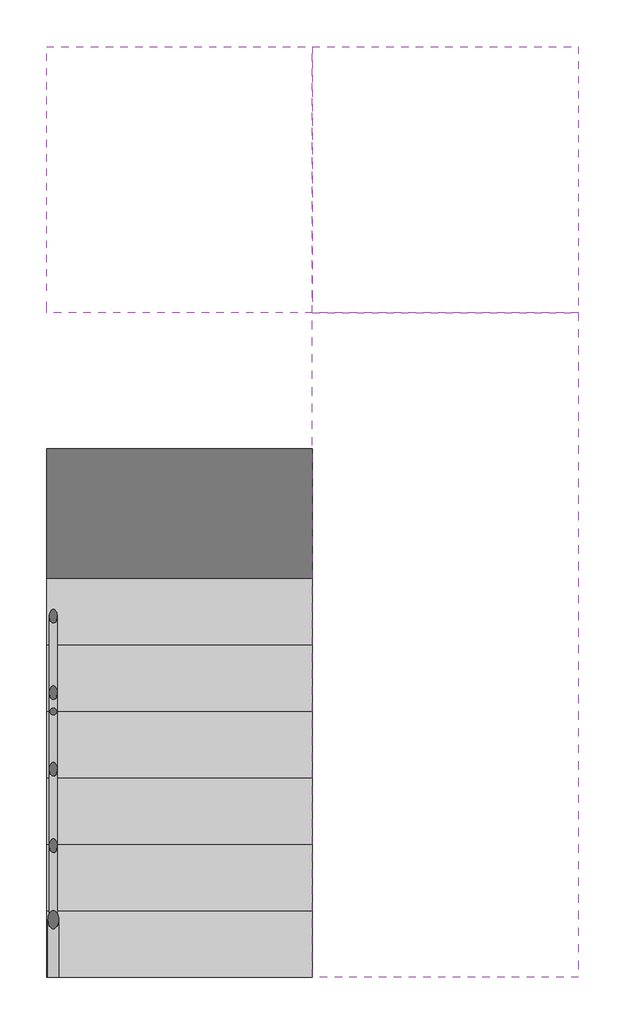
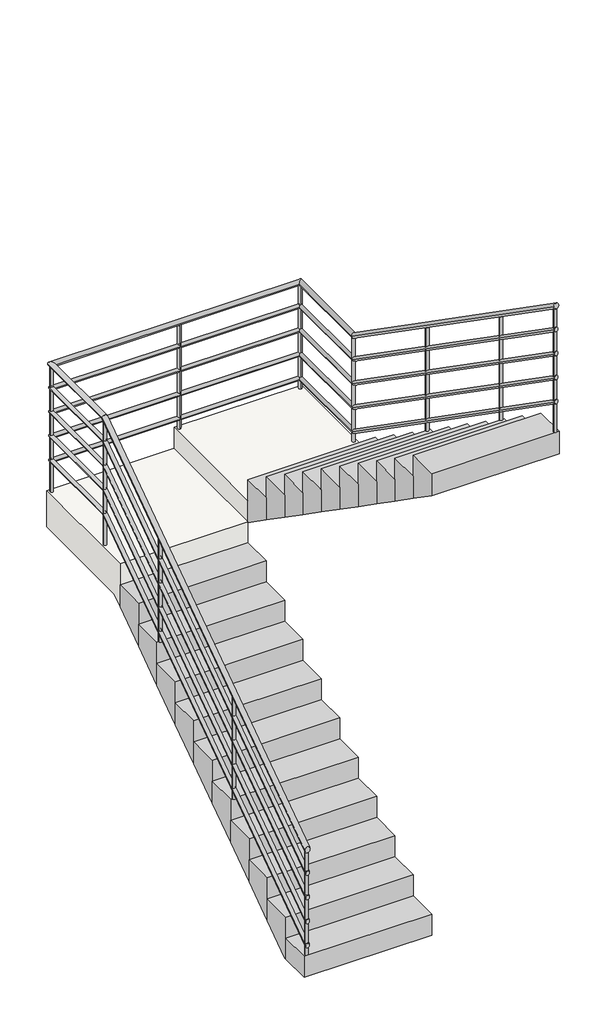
# One storey: 2 slabs, 2 stair flights, 1 railing.
"""IFC4 building model written with IfcOpenShell, lengths in millimetres."""

from ifc_helpers import new_model, si_unit, point, frame, frame_2d, origin, place, context, project, spatial, circle_curve, ellipse_curve, trimmed, segment, composite_curve, outline, extrude, faceted_brep, element, save
from ifc_brep_helpers import plane_surface, cylinder_surface, advanced_brep

model = new_model("IFC4")

# Units and contexts
model_context = context("Model", 3, world=origin())
ifc_project = project(units=[si_unit("LENGTHUNIT", "METRE", prefix="MILLI")], contexts=[model_context])

# Site, building, storey
site = spatial("IfcSite", under=ifc_project)
building = spatial("IfcBuilding", under=site)
storey = spatial("IfcBuildingStorey", under=building, Name="樓層 1", Elevation=0.0)

# Railing
placement = place(None, origin())
element("IfcRailing", 1, ObjectType="900mm 管", at=placement, inside=storey, context=model_context, shape_type="SolidModel", body=[
    advanced_brep(
    [(-8325.6938865, 68.7442764, 1049.5496944), (-8365.6938865, 68.7442764, 1049.5496944), (-6416.4938865, 68.7442764, 4875.6366509), (-6376.4938865, 68.7442764, 4875.6366509), (-8325.6938865, 2825.0165907, 2966.9565217), (-8365.6938865, 2825.0165907, 2966.9565217), (-8325.6938865, 3523.3442764, 2966.9565217), (-8365.6938865, 3563.3442764, 2966.9565217), (-6416.4938865, 3523.3442764, 2966.9565217), (-6376.4938865, 3563.3442764, 2966.9565217), (-6416.4938865, 2812.4719621, 2966.9565217), (-6376.4938865, 2812.4719621, 2966.9565217)],
    [
        (0, 1, ellipse_curve(frame((-8345.6938865, 68.7442764, 1049.5496944), z_axis=(0.0, -1.0, 0.0), x_axis=(0.0, 0.0, -1.0)), 24.3633491, 20.0)),
        (1, 0, ellipse_curve(frame((-8345.6938865, 68.7442764, 1049.5496944), z_axis=(0.0, -1.0, 0.0), x_axis=(0.0, 0.0, -1.0)), 24.3633491, 20.0)),
        (2, 3, ellipse_curve(frame((-6396.4938865, 68.7442764, 4875.6366509), z_axis=(0.0, -1.0, 0.0), x_axis=(0.0, 0.0, -1.0)), 24.3633491, 20.0)),
        (3, 2, ellipse_curve(frame((-6396.4938865, 68.7442764, 4875.6366509), z_axis=(0.0, -1.0, 0.0), x_axis=(0.0, 0.0, -1.0)), 24.3633491, 20.0)),
        (0, 4),
        (4, 5, ellipse_curve(frame((-8345.6938865, 2825.0165907, 2966.9565217), z_axis=(0.0, -0.9541763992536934, -0.29924471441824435), x_axis=(0.0, 0.2992447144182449, -0.9541763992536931)), 20.9604849, 20.0)),
        (5, 1),
        (5, 4, ellipse_curve(frame((-8345.6938865, 2825.0165907, 2966.9565217), z_axis=(0.0, -0.9541763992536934, -0.29924471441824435), x_axis=(0.0, 0.2992447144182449, -0.9541763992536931)), 20.9604849, 20.0)),
        (4, 6),
        (6, 7, ellipse_curve(frame((-8345.6938865, 3543.3442764, 2966.9565217), z_axis=(-0.7071067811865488, -0.7071067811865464, 0.0), x_axis=(0.7071067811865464, -0.7071067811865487, 0.0)), 28.2842712, 20.0)),
        (7, 5),
        (7, 6, ellipse_curve(frame((-8345.6938865, 3543.3442764, 2966.9565217), z_axis=(-0.7071067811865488, -0.7071067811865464, 0.0), x_axis=(0.7071067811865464, -0.7071067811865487, 0.0)), 28.2842712, 20.0)),
        (6, 8),
        (8, 9, ellipse_curve(frame((-6396.4938865, 3543.3442764, 2966.9565217), z_axis=(-0.707106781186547, 0.7071067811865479, 0.0), x_axis=(-0.7071067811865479, -0.7071067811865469, 0.0)), 28.2842712, 20.0)),
        (9, 7),
        (9, 8, ellipse_curve(frame((-6396.4938865, 3543.3442764, 2966.9565217), z_axis=(-0.707106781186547, 0.7071067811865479, 0.0), x_axis=(-0.7071067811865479, -0.7071067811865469, 0.0)), 28.2842712, 20.0)),
        (8, 10),
        (10, 11, ellipse_curve(frame((-6396.4938865, 2812.4719621, 2966.9565217), z_axis=(0.0, 0.9541763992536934, -0.29924471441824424), x_axis=(0.0, 0.2992447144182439, 0.9541763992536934)), 20.9604849, 20.0)),
        (11, 9),
        (11, 10, ellipse_curve(frame((-6396.4938865, 2812.4719621, 2966.9565217), z_axis=(0.0, 0.9541763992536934, -0.29924471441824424), x_axis=(0.0, 0.2992447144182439, 0.9541763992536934)), 20.9604849, 20.0)),
        (10, 2),
        (3, 11),
    ],
    [
        plane_surface(frame((-8345.6938865, 68.7442764, 1073.9130435), z_axis=(0.0, -1.0, 0.0), x_axis=(0.0, 0.0, 1.0))),
        plane_surface(frame((-6396.4938865, 68.7442764, 4900.0), z_axis=(0.0, -1.0, 0.0), x_axis=(0.0, 0.0, -1.0))),
        cylinder_surface(frame((-8345.6938865, 80.1655662, 1057.4949394), z_axis=(0.0, -0.8209052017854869, -0.5710644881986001), x_axis=(-1.0, 0.0, 0.0)), 20.0),
        cylinder_surface(frame((-8345.6938865, 2818.7442764, 2966.9565217), z_axis=(0.0, -1.0, 0.0), x_axis=(-1.0, 0.0, 0.0)), 20.0),
        cylinder_surface(frame((-8345.6938865, 3543.3442764, 2966.9565217), z_axis=(-1.0, 0.0, 0.0), x_axis=(0.0, 1.0, 0.0)), 20.0),
        cylinder_surface(frame((-6396.4938865, 3543.3442764, 2966.9565217), z_axis=(0.0, 1.0, 0.0), x_axis=(1.0, 0.0, 0.0)), 20.0),
        cylinder_surface(frame((-6396.4938865, 2807.3229866, 2970.5384177), z_axis=(0.0, 0.8209052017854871, -0.5710644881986), x_axis=(1.0, 0.0, 0.0)), 20.0),
    ],
    [
        (0, [[1, 2]]),
        (1, [[3, 4]]),
        (2, [[-1, 5, 6, 7]]),
        (2, [[-2, -7, 8, -5]]),
        (3, [[-6, 9, 10, 11]]),
        (3, [[-8, -11, 12, -9]]),
        (4, [[-10, 13, 14, 15]]),
        (4, [[-12, -15, 16, -13]]),
        (5, [[-14, 17, 18, 19]]),
        (5, [[-16, -19, 20, -17]]),
        (6, [[-18, 21, -4, 22]]),
        (6, [[-20, -22, -3, -21]]),
    ],
),
    advanced_brep(
    [(-8330.6938865, 68.7442764, 855.6405317), (-8360.6938865, 68.7442764, 855.6405317), (-8330.6938865, 2823.4485121, 2771.9565217), (-8360.6938865, 2823.4485121, 2771.9565217), (-8330.6938865, 3528.3442764, 2771.9565217), (-8360.6938865, 3558.3442764, 2771.9565217), (-6411.4938865, 3528.3442764, 2771.9565217), (-6381.4938865, 3558.3442764, 2771.9565217), (-6411.4938865, 2814.0400407, 2771.9565217), (-6381.4938865, 2814.0400407, 2771.9565217), (-6411.4938865, 68.7442764, 4681.7274882), (-6381.4938865, 68.7442764, 4681.7274882)],
    [
        (0, 1, ellipse_curve(frame((-8345.6938865, 68.7442764, 855.6405317), z_axis=(0.0, -1.0, 0.0), x_axis=(0.0, 0.0, -1.0)), 18.2725118, 15.0)),
        (1, 0, ellipse_curve(frame((-8345.6938865, 68.7442764, 855.6405317), z_axis=(0.0, -1.0, 0.0), x_axis=(0.0, 0.0, -1.0)), 18.2725118, 15.0)),
        (0, 2),
        (2, 3, ellipse_curve(frame((-8345.6938865, 2823.4485121, 2771.9565217), z_axis=(0.0, -0.9541763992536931, -0.2992447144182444), x_axis=(0.0, 0.29924471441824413, -0.9541763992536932)), 15.7203637, 15.0)),
        (3, 1),
        (3, 2, ellipse_curve(frame((-8345.6938865, 2823.4485121, 2771.9565217), z_axis=(0.0, -0.9541763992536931, -0.2992447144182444), x_axis=(0.0, 0.29924471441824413, -0.9541763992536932)), 15.7203637, 15.0)),
        (2, 4),
        (4, 5, ellipse_curve(frame((-8345.6938865, 3543.3442764, 2771.9565217), z_axis=(-0.7071067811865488, -0.7071067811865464, 0.0), x_axis=(0.7071067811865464, -0.7071067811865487, 0.0)), 21.2132034, 15.0)),
        (5, 3),
        (5, 4, ellipse_curve(frame((-8345.6938865, 3543.3442764, 2771.9565217), z_axis=(-0.7071067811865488, -0.7071067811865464, 0.0), x_axis=(0.7071067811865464, -0.7071067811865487, 0.0)), 21.2132034, 15.0)),
        (4, 6),
        (6, 7, ellipse_curve(frame((-6396.4938865, 3543.3442764, 2771.9565217), z_axis=(-0.707106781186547, 0.7071067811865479, 0.0), x_axis=(-0.7071067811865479, -0.7071067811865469, 0.0)), 21.2132034, 15.0)),
        (7, 5),
        (7, 6, ellipse_curve(frame((-6396.4938865, 3543.3442764, 2771.9565217), z_axis=(-0.707106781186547, 0.7071067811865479, 0.0), x_axis=(-0.7071067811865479, -0.7071067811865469, 0.0)), 21.2132034, 15.0)),
        (6, 8),
        (8, 9, ellipse_curve(frame((-6396.4938865, 2814.0400407, 2771.9565217), z_axis=(0.0, 0.9541763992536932, -0.2992447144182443), x_axis=(0.0, 0.29924471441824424, 0.9541763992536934)), 15.7203637, 15.0)),
        (9, 7),
        (9, 8, ellipse_curve(frame((-6396.4938865, 2814.0400407, 2771.9565217), z_axis=(0.0, 0.9541763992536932, -0.2992447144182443), x_axis=(0.0, 0.29924471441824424, 0.9541763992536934)), 15.7203637, 15.0)),
        (10, 11, ellipse_curve(frame((-6396.4938865, 68.7442764, 4681.7274882), z_axis=(0.0, -1.0, 0.0), x_axis=(0.0, 0.0, -1.0)), 18.2725118, 15.0)),
        (11, 10, ellipse_curve(frame((-6396.4938865, 68.7442764, 4681.7274882), z_axis=(0.0, -1.0, 0.0), x_axis=(0.0, 0.0, -1.0)), 18.2725118, 15.0)),
        (8, 10),
        (11, 9),
    ],
    [
        plane_surface(frame((-8345.6938865, 68.7442764, 873.9130435), z_axis=(0.0, -1.0, 0.0), x_axis=(0.0, 0.0, 1.0))),
        cylinder_surface(frame((-8345.6938865, 77.3102437, 861.5994655), z_axis=(0.0, -0.8209052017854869, -0.5710644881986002), x_axis=(-1.0, 0.0, 0.0)), 15.0),
        cylinder_surface(frame((-8345.6938865, 2818.7442764, 2771.9565217), z_axis=(0.0, -1.0, 0.0), x_axis=(-1.0, 0.0, 0.0)), 15.0),
        cylinder_surface(frame((-8345.6938865, 3543.3442764, 2771.9565217), z_axis=(-1.0, 0.0, 0.0), x_axis=(0.0, 1.0, 0.0)), 15.0),
        cylinder_surface(frame((-6396.4938865, 3543.3442764, 2771.9565217), z_axis=(0.0, 1.0, 0.0), x_axis=(1.0, 0.0, 0.0)), 15.0),
        plane_surface(frame((-6396.4938865, 68.7442764, 4700.0), z_axis=(0.0, -1.0, 0.0), x_axis=(0.0, 0.0, -1.0))),
        cylinder_surface(frame((-6396.4938865, 2810.1783091, 2774.6429437), z_axis=(0.0, 0.820905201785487, -0.5710644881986), x_axis=(1.0, 0.0, 0.0)), 15.0),
    ],
    [
        (0, [[1, 2]]),
        (1, [[-1, 3, 4, 5]]),
        (1, [[-2, -5, 6, -3]]),
        (2, [[-4, 7, 8, 9]]),
        (2, [[-6, -9, 10, -7]]),
        (3, [[-8, 11, 12, 13]]),
        (3, [[-10, -13, 14, -11]]),
        (4, [[-12, 15, 16, 17]]),
        (4, [[-14, -17, 18, -15]]),
        (5, [[19, 20]]),
        (6, [[-16, 21, -20, 22]]),
        (6, [[-18, -22, -19, -21]]),
    ],
),
    advanced_brep(
    [(-8330.6938865, 68.7442764, 655.6405317), (-8360.6938865, 68.7442764, 655.6405317), (-8330.6938865, 2823.4485121, 2571.9565217), (-8360.6938865, 2823.4485121, 2571.9565217), (-8330.6938865, 3528.3442764, 2571.9565217), (-8360.6938865, 3558.3442764, 2571.9565217), (-6411.4938865, 3528.3442764, 2571.9565217), (-6381.4938865, 3558.3442764, 2571.9565217), (-6411.4938865, 2814.0400407, 2571.9565217), (-6381.4938865, 2814.0400407, 2571.9565217), (-6411.4938865, 68.7442764, 4481.7274882), (-6381.4938865, 68.7442764, 4481.7274882)],
    [
        (0, 1, ellipse_curve(frame((-8345.6938865, 68.7442764, 655.6405317), z_axis=(0.0, -1.0, 0.0), x_axis=(0.0, 0.0, -1.0)), 18.2725118, 15.0)),
        (1, 0, ellipse_curve(frame((-8345.6938865, 68.7442764, 655.6405317), z_axis=(0.0, -1.0, 0.0), x_axis=(0.0, 0.0, -1.0)), 18.2725118, 15.0)),
        (0, 2),
        (2, 3, ellipse_curve(frame((-8345.6938865, 2823.4485121, 2571.9565217), z_axis=(0.0, -0.9541763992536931, -0.2992447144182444), x_axis=(0.0, 0.29924471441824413, -0.9541763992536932)), 15.7203637, 15.0)),
        (3, 1),
        (3, 2, ellipse_curve(frame((-8345.6938865, 2823.4485121, 2571.9565217), z_axis=(0.0, -0.9541763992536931, -0.2992447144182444), x_axis=(0.0, 0.29924471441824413, -0.9541763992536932)), 15.7203637, 15.0)),
        (2, 4),
        (4, 5, ellipse_curve(frame((-8345.6938865, 3543.3442764, 2571.9565217), z_axis=(-0.7071067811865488, -0.7071067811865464, 0.0), x_axis=(0.7071067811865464, -0.7071067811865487, 0.0)), 21.2132034, 15.0)),
        (5, 3),
        (5, 4, ellipse_curve(frame((-8345.6938865, 3543.3442764, 2571.9565217), z_axis=(-0.7071067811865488, -0.7071067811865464, 0.0), x_axis=(0.7071067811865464, -0.7071067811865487, 0.0)), 21.2132034, 15.0)),
        (4, 6),
        (6, 7, ellipse_curve(frame((-6396.4938865, 3543.3442764, 2571.9565217), z_axis=(-0.707106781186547, 0.7071067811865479, 0.0), x_axis=(-0.7071067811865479, -0.7071067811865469, 0.0)), 21.2132034, 15.0)),
        (7, 5),
        (7, 6, ellipse_curve(frame((-6396.4938865, 3543.3442764, 2571.9565217), z_axis=(-0.707106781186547, 0.7071067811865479, 0.0), x_axis=(-0.7071067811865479, -0.7071067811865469, 0.0)), 21.2132034, 15.0)),
        (6, 8),
        (8, 9, ellipse_curve(frame((-6396.4938865, 2814.0400407, 2571.9565217), z_axis=(0.0, 0.9541763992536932, -0.2992447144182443), x_axis=(0.0, 0.29924471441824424, 0.9541763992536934)), 15.7203637, 15.0)),
        (9, 7),
        (9, 8, ellipse_curve(frame((-6396.4938865, 2814.0400407, 2571.9565217), z_axis=(0.0, 0.9541763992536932, -0.2992447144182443), x_axis=(0.0, 0.29924471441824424, 0.9541763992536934)), 15.7203637, 15.0)),
        (10, 11, ellipse_curve(frame((-6396.4938865, 68.7442764, 4481.7274882), z_axis=(0.0, -1.0, 0.0), x_axis=(0.0, 0.0, -1.0)), 18.2725118, 15.0)),
        (11, 10, ellipse_curve(frame((-6396.4938865, 68.7442764, 4481.7274882), z_axis=(0.0, -1.0, 0.0), x_axis=(0.0, 0.0, -1.0)), 18.2725118, 15.0)),
        (8, 10),
        (11, 9),
    ],
    [
        plane_surface(frame((-8345.6938865, 68.7442764, 673.9130435), z_axis=(0.0, -1.0, 0.0), x_axis=(0.0, 0.0, 1.0))),
        cylinder_surface(frame((-8345.6938865, 77.3102437, 661.5994655), z_axis=(0.0, -0.8209052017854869, -0.5710644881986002), x_axis=(-1.0, 0.0, 0.0)), 15.0),
        cylinder_surface(frame((-8345.6938865, 2818.7442764, 2571.9565217), z_axis=(0.0, -1.0, 0.0), x_axis=(-1.0, 0.0, 0.0)), 15.0),
        cylinder_surface(frame((-8345.6938865, 3543.3442764, 2571.9565217), z_axis=(-1.0, 0.0, 0.0), x_axis=(0.0, 1.0, 0.0)), 15.0),
        cylinder_surface(frame((-6396.4938865, 3543.3442764, 2571.9565217), z_axis=(0.0, 1.0, 0.0), x_axis=(1.0, 0.0, 0.0)), 15.0),
        plane_surface(frame((-6396.4938865, 68.7442764, 4500.0), z_axis=(0.0, -1.0, 0.0), x_axis=(0.0, 0.0, -1.0))),
        cylinder_surface(frame((-6396.4938865, 2810.1783091, 2574.6429437), z_axis=(0.0, 0.820905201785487, -0.5710644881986), x_axis=(1.0, 0.0, 0.0)), 15.0),
    ],
    [
        (0, [[1, 2]]),
        (1, [[-1, 3, 4, 5]]),
        (1, [[-2, -5, 6, -3]]),
        (2, [[-4, 7, 8, 9]]),
        (2, [[-6, -9, 10, -7]]),
        (3, [[-8, 11, 12, 13]]),
        (3, [[-10, -13, 14, -11]]),
        (4, [[-12, 15, 16, 17]]),
        (4, [[-14, -17, 18, -15]]),
        (5, [[19, 20]]),
        (6, [[-16, 21, -20, 22]]),
        (6, [[-18, -22, -19, -21]]),
    ],
),
    advanced_brep(
    [(-8330.6938865, 68.7442764, 455.6405317), (-8360.6938865, 68.7442764, 455.6405317), (-8330.6938865, 2823.4485121, 2371.9565217), (-8360.6938865, 2823.4485121, 2371.9565217), (-8330.6938865, 3528.3442764, 2371.9565217), (-8360.6938865, 3558.3442764, 2371.9565217), (-6411.4938865, 3528.3442764, 2371.9565217), (-6381.4938865, 3558.3442764, 2371.9565217), (-6411.4938865, 2814.0400407, 2371.9565217), (-6381.4938865, 2814.0400407, 2371.9565217), (-6411.4938865, 68.7442764, 4281.7274882), (-6381.4938865, 68.7442764, 4281.7274882)],
    [
        (0, 1, ellipse_curve(frame((-8345.6938865, 68.7442764, 455.6405317), z_axis=(0.0, -1.0, 0.0), x_axis=(0.0, 0.0, -1.0)), 18.2725118, 15.0)),
        (1, 0, ellipse_curve(frame((-8345.6938865, 68.7442764, 455.6405317), z_axis=(0.0, -1.0, 0.0), x_axis=(0.0, 0.0, -1.0)), 18.2725118, 15.0)),
        (0, 2),
        (2, 3, ellipse_curve(frame((-8345.6938865, 2823.4485121, 2371.9565217), z_axis=(0.0, -0.9541763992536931, -0.2992447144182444), x_axis=(0.0, 0.29924471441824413, -0.9541763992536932)), 15.7203637, 15.0)),
        (3, 1),
        (3, 2, ellipse_curve(frame((-8345.6938865, 2823.4485121, 2371.9565217), z_axis=(0.0, -0.9541763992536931, -0.2992447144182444), x_axis=(0.0, 0.29924471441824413, -0.9541763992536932)), 15.7203637, 15.0)),
        (2, 4),
        (4, 5, ellipse_curve(frame((-8345.6938865, 3543.3442764, 2371.9565217), z_axis=(-0.7071067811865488, -0.7071067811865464, 0.0), x_axis=(0.7071067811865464, -0.7071067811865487, 0.0)), 21.2132034, 15.0)),
        (5, 3),
        (5, 4, ellipse_curve(frame((-8345.6938865, 3543.3442764, 2371.9565217), z_axis=(-0.7071067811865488, -0.7071067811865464, 0.0), x_axis=(0.7071067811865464, -0.7071067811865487, 0.0)), 21.2132034, 15.0)),
        (4, 6),
        (6, 7, ellipse_curve(frame((-6396.4938865, 3543.3442764, 2371.9565217), z_axis=(-0.707106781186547, 0.7071067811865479, 0.0), x_axis=(-0.7071067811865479, -0.7071067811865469, 0.0)), 21.2132034, 15.0)),
        (7, 5),
        (7, 6, ellipse_curve(frame((-6396.4938865, 3543.3442764, 2371.9565217), z_axis=(-0.707106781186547, 0.7071067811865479, 0.0), x_axis=(-0.7071067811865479, -0.7071067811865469, 0.0)), 21.2132034, 15.0)),
        (6, 8),
        (8, 9, ellipse_curve(frame((-6396.4938865, 2814.0400407, 2371.9565217), z_axis=(0.0, 0.9541763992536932, -0.2992447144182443), x_axis=(0.0, 0.29924471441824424, 0.9541763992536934)), 15.7203637, 15.0)),
        (9, 7),
        (9, 8, ellipse_curve(frame((-6396.4938865, 2814.0400407, 2371.9565217), z_axis=(0.0, 0.9541763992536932, -0.2992447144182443), x_axis=(0.0, 0.29924471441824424, 0.9541763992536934)), 15.7203637, 15.0)),
        (10, 11, ellipse_curve(frame((-6396.4938865, 68.7442764, 4281.7274882), z_axis=(0.0, -1.0, 0.0), x_axis=(0.0, 0.0, -1.0)), 18.2725118, 15.0)),
        (11, 10, ellipse_curve(frame((-6396.4938865, 68.7442764, 4281.7274882), z_axis=(0.0, -1.0, 0.0), x_axis=(0.0, 0.0, -1.0)), 18.2725118, 15.0)),
        (8, 10),
        (11, 9),
    ],
    [
        plane_surface(frame((-8345.6938865, 68.7442764, 473.9130435), z_axis=(0.0, -1.0, 0.0), x_axis=(0.0, 0.0, 1.0))),
        cylinder_surface(frame((-8345.6938865, 77.3102437, 461.5994655), z_axis=(0.0, -0.8209052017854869, -0.5710644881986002), x_axis=(-1.0, 0.0, 0.0)), 15.0),
        cylinder_surface(frame((-8345.6938865, 2818.7442764, 2371.9565217), z_axis=(0.0, -1.0, 0.0), x_axis=(-1.0, 0.0, 0.0)), 15.0),
        cylinder_surface(frame((-8345.6938865, 3543.3442764, 2371.9565217), z_axis=(-1.0, 0.0, 0.0), x_axis=(0.0, 1.0, 0.0)), 15.0),
        cylinder_surface(frame((-6396.4938865, 3543.3442764, 2371.9565217), z_axis=(0.0, 1.0, 0.0), x_axis=(1.0, 0.0, 0.0)), 15.0),
        plane_surface(frame((-6396.4938865, 68.7442764, 4300.0), z_axis=(0.0, -1.0, 0.0), x_axis=(0.0, 0.0, -1.0))),
        cylinder_surface(frame((-6396.4938865, 2810.1783091, 2374.6429437), z_axis=(0.0, 0.820905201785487, -0.5710644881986), x_axis=(1.0, 0.0, 0.0)), 15.0),
    ],
    [
        (0, [[1, 2]]),
        (1, [[-1, 3, 4, 5]]),
        (1, [[-2, -5, 6, -3]]),
        (2, [[-4, 7, 8, 9]]),
        (2, [[-6, -9, 10, -7]]),
        (3, [[-8, 11, 12, 13]]),
        (3, [[-10, -13, 14, -11]]),
        (4, [[-12, 15, 16, 17]]),
        (4, [[-14, -17, 18, -15]]),
        (5, [[19, 20]]),
        (6, [[-16, 21, -20, 22]]),
        (6, [[-18, -22, -19, -21]]),
    ],
),
    advanced_brep(
    [(-8330.6938865, 68.7442764, 255.6405317), (-8360.6938865, 68.7442764, 255.6405317), (-8330.6938865, 2823.4485121, 2171.9565217), (-8360.6938865, 2823.4485121, 2171.9565217), (-8330.6938865, 3528.3442764, 2171.9565217), (-8360.6938865, 3558.3442764, 2171.9565217), (-6411.4938865, 3528.3442764, 2171.9565217), (-6381.4938865, 3558.3442764, 2171.9565217), (-6411.4938865, 2814.0400407, 2171.9565217), (-6381.4938865, 2814.0400407, 2171.9565217), (-6411.4938865, 68.7442764, 4081.7274882), (-6381.4938865, 68.7442764, 4081.7274882)],
    [
        (0, 1, ellipse_curve(frame((-8345.6938865, 68.7442764, 255.6405317), z_axis=(0.0, -1.0, 0.0), x_axis=(0.0, 0.0, -1.0)), 18.2725118, 15.0)),
        (1, 0, ellipse_curve(frame((-8345.6938865, 68.7442764, 255.6405317), z_axis=(0.0, -1.0, 0.0), x_axis=(0.0, 0.0, -1.0)), 18.2725118, 15.0)),
        (0, 2),
        (2, 3, ellipse_curve(frame((-8345.6938865, 2823.4485121, 2171.9565217), z_axis=(0.0, -0.9541763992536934, -0.29924471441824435), x_axis=(0.0, 0.2992447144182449, -0.9541763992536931)), 15.7203637, 15.0)),
        (3, 1),
        (3, 2, ellipse_curve(frame((-8345.6938865, 2823.4485121, 2171.9565217), z_axis=(0.0, -0.9541763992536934, -0.29924471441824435), x_axis=(0.0, 0.2992447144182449, -0.9541763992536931)), 15.7203637, 15.0)),
        (2, 4),
        (4, 5, ellipse_curve(frame((-8345.6938865, 3543.3442764, 2171.9565217), z_axis=(-0.7071067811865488, -0.7071067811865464, 0.0), x_axis=(0.7071067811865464, -0.7071067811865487, 0.0)), 21.2132034, 15.0)),
        (5, 3),
        (5, 4, ellipse_curve(frame((-8345.6938865, 3543.3442764, 2171.9565217), z_axis=(-0.7071067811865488, -0.7071067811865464, 0.0), x_axis=(0.7071067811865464, -0.7071067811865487, 0.0)), 21.2132034, 15.0)),
        (4, 6),
        (6, 7, ellipse_curve(frame((-6396.4938865, 3543.3442764, 2171.9565217), z_axis=(-0.707106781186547, 0.7071067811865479, 0.0), x_axis=(-0.7071067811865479, -0.7071067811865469, 0.0)), 21.2132034, 15.0)),
        (7, 5),
        (7, 6, ellipse_curve(frame((-6396.4938865, 3543.3442764, 2171.9565217), z_axis=(-0.707106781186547, 0.7071067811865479, 0.0), x_axis=(-0.7071067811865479, -0.7071067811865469, 0.0)), 21.2132034, 15.0)),
        (6, 8),
        (8, 9, ellipse_curve(frame((-6396.4938865, 2814.0400407, 2171.9565217), z_axis=(0.0, 0.9541763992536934, -0.29924471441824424), x_axis=(0.0, 0.2992447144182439, 0.9541763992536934)), 15.7203637, 15.0)),
        (9, 7),
        (9, 8, ellipse_curve(frame((-6396.4938865, 2814.0400407, 2171.9565217), z_axis=(0.0, 0.9541763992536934, -0.29924471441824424), x_axis=(0.0, 0.2992447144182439, 0.9541763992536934)), 15.7203637, 15.0)),
        (10, 11, ellipse_curve(frame((-6396.4938865, 68.7442764, 4081.7274882), z_axis=(0.0, -1.0, 0.0), x_axis=(0.0, 0.0, -1.0)), 18.2725118, 15.0)),
        (11, 10, ellipse_curve(frame((-6396.4938865, 68.7442764, 4081.7274882), z_axis=(0.0, -1.0, 0.0), x_axis=(0.0, 0.0, -1.0)), 18.2725118, 15.0)),
        (8, 10),
        (11, 9),
    ],
    [
        plane_surface(frame((-8345.6938865, 68.7442764, 273.9130435), z_axis=(0.0, -1.0, 0.0), x_axis=(0.0, 0.0, 1.0))),
        cylinder_surface(frame((-8345.6938865, 77.3102437, 261.5994655), z_axis=(0.0, -0.8209052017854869, -0.5710644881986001), x_axis=(-1.0, 0.0, 0.0)), 15.0),
        cylinder_surface(frame((-8345.6938865, 2818.7442764, 2171.9565217), z_axis=(0.0, -1.0, 0.0), x_axis=(-1.0, 0.0, 0.0)), 15.0),
        cylinder_surface(frame((-8345.6938865, 3543.3442764, 2171.9565217), z_axis=(-1.0, 0.0, 0.0), x_axis=(0.0, 1.0, 0.0)), 15.0),
        cylinder_surface(frame((-6396.4938865, 3543.3442764, 2171.9565217), z_axis=(0.0, 1.0, 0.0), x_axis=(1.0, 0.0, 0.0)), 15.0),
        plane_surface(frame((-6396.4938865, 68.7442764, 4100.0), z_axis=(0.0, -1.0, 0.0), x_axis=(0.0, 0.0, -1.0))),
        cylinder_surface(frame((-6396.4938865, 2810.1783091, 2174.6429437), z_axis=(0.0, 0.8209052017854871, -0.5710644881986), x_axis=(1.0, 0.0, 0.0)), 15.0),
    ],
    [
        (0, [[1, 2]]),
        (1, [[-1, 3, 4, 5]]),
        (1, [[-2, -5, 6, -3]]),
        (2, [[-4, 7, 8, 9]]),
        (2, [[-6, -9, 10, -7]]),
        (3, [[-8, 11, 12, 13]]),
        (3, [[-10, -13, 14, -11]]),
        (4, [[-12, 15, 16, 17]]),
        (4, [[-14, -17, 18, -15]]),
        (5, [[19, 20]]),
        (6, [[-16, 21, -20, 22]]),
        (6, [[-18, -22, -19, -21]]),
    ],
),
    advanced_brep(
    [(-6383.9938865, 818.7442764, 4329.5341714), (-6408.9938865, 818.7442764, 4329.5341714), (-6408.9938865, 818.7442764, 3478.2608696), (-6383.9938865, 818.7442764, 3478.2608696)],
    [
        (0, 1, ellipse_curve(frame((-6396.4938865, 818.7442764, 4329.5341714), z_axis=(0.0, -0.5710644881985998, -0.8209052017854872), x_axis=(0.0, -0.8209052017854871, 0.5710644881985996)), 15.2270932, 12.5)),
        (1, 2),
        (2, 3, circle_curve(frame((-6396.4938865, 818.7442764, 3478.2608696), z_axis=(0.0, 0.0, 1.0), x_axis=(-1.0, 0.0, 0.0)), 12.5)),
        (3, 0),
        (3, 2, circle_curve(frame((-6396.4938865, 818.7442764, 3478.2608696), z_axis=(0.0, 0.0, 1.0), x_axis=(-1.0, 0.0, 0.0)), 12.5)),
        (1, 0, ellipse_curve(frame((-6396.4938865, 818.7442764, 4329.5341714), z_axis=(0.0, -0.5710644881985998, -0.8209052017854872), x_axis=(0.0, -0.8209052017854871, 0.5710644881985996)), 15.2270932, 12.5)),
    ],
    [
        cylinder_surface(frame((-6396.4938865, 818.7442764, 3378.2608696), z_axis=(0.0, 0.0, 1.0), x_axis=(-1.0, 0.0, 0.0)), 12.5),
        plane_surface(frame((-6421.4938865, 793.7442764, 4346.9254757), z_axis=(0.0, 0.5710644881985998, 0.8209052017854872), x_axis=(1.0, 0.0, 0.0))),
        plane_surface(frame((-6421.4938865, 843.7442764, 3478.2608696), z_axis=(0.0, 0.0, -1.0), x_axis=(1.0, 0.0, 0.0))),
    ],
    [
        (0, [[1, 2, 3, 4]]),
        (0, [[5, -2, 6, -4]]),
        (1, [[-6, -1]]),
        (2, [[-5, -3]]),
    ],
),
    advanced_brep(
    [(-6383.9938865, 1818.7442764, 3633.8819975), (-6408.9938865, 1818.7442764, 3633.8819975), (-6408.9938865, 1818.7442764, 2782.6086957), (-6383.9938865, 1818.7442764, 2782.6086957)],
    [
        (0, 1, ellipse_curve(frame((-6396.4938865, 1818.7442764, 3633.8819975), z_axis=(0.0, -0.5710644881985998, -0.8209052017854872), x_axis=(0.0, -0.8209052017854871, 0.5710644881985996)), 15.2270932, 12.5)),
        (1, 2),
        (2, 3, circle_curve(frame((-6396.4938865, 1818.7442764, 2782.6086957), z_axis=(0.0, 0.0, 1.0), x_axis=(-1.0, 0.0, 0.0)), 12.5)),
        (3, 0),
        (3, 2, circle_curve(frame((-6396.4938865, 1818.7442764, 2782.6086957), z_axis=(0.0, 0.0, 1.0), x_axis=(-1.0, 0.0, 0.0)), 12.5)),
        (1, 0, ellipse_curve(frame((-6396.4938865, 1818.7442764, 3633.8819975), z_axis=(0.0, -0.5710644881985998, -0.8209052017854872), x_axis=(0.0, -0.8209052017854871, 0.5710644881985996)), 15.2270932, 12.5)),
    ],
    [
        cylinder_surface(frame((-6396.4938865, 1818.7442764, 2682.6086957), z_axis=(0.0, 0.0, 1.0), x_axis=(-1.0, 0.0, 0.0)), 12.5),
        plane_surface(frame((-6421.4938865, 1793.7442764, 3651.2733018), z_axis=(0.0, 0.5710644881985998, 0.8209052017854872), x_axis=(1.0, 0.0, 0.0))),
        plane_surface(frame((-6421.4938865, 1843.7442764, 2782.6086957), z_axis=(0.0, 0.0, -1.0), x_axis=(1.0, 0.0, 0.0))),
    ],
    [
        (0, [[1, 2, 3, 4]]),
        (0, [[5, -2, 6, -4]]),
        (1, [[-6, -1]]),
        (2, [[-5, -3]]),
    ],
),
    extrude(outline(composite_curve([segment(trimmed(circle_curve(frame_2d((-7345.6938865, 3543.3442764)), 12.5), [point((-7345.6938865, 3530.8442764))], [point((-7345.6938865, 3555.8442764))], False, "CARTESIAN"), True, "CONTINUOUS"), segment(trimmed(circle_curve(frame_2d((-7345.6938865, 3543.3442764)), 12.5), [point((-7345.6938865, 3555.8442764))], [point((-7345.6938865, 3530.8442764))], False, "CARTESIAN"), True, "CONTINUOUS")], self_intersect=False)), frame((0.0, 0.0, 2086.9565217), z_axis=(0.0, 0.0, 1.0), x_axis=(1.0, 0.0, 0.0)), (0.0, 0.0, 1.0), 860.0),
    advanced_brep(
    [(-8358.1938865, 2068.7442764, 2416.4906931), (-8333.1938865, 2068.7442764, 2416.4906931), (-8333.1938865, 2068.7442764, 1565.2173913), (-8358.1938865, 2068.7442764, 1565.2173913)],
    [
        (0, 1, ellipse_curve(frame((-8345.6938865, 2068.7442764, 2416.4906931), z_axis=(0.0, 0.5710644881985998, -0.8209052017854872), x_axis=(0.0, 0.8209052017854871, 0.5710644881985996)), 15.2270932, 12.5)),
        (1, 2),
        (2, 3, circle_curve(frame((-8345.6938865, 2068.7442764, 1565.2173913), z_axis=(0.0, 0.0, 1.0), x_axis=(1.0, 0.0, 0.0)), 12.5)),
        (3, 0),
        (3, 2, circle_curve(frame((-8345.6938865, 2068.7442764, 1565.2173913), z_axis=(0.0, 0.0, 1.0), x_axis=(1.0, 0.0, 0.0)), 12.5)),
        (1, 0, ellipse_curve(frame((-8345.6938865, 2068.7442764, 2416.4906931), z_axis=(0.0, 0.5710644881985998, -0.8209052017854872), x_axis=(0.0, 0.8209052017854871, 0.5710644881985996)), 15.2270932, 12.5)),
    ],
    [
        cylinder_surface(frame((-8345.6938865, 2068.7442764, 1465.2173913), z_axis=(0.0, 0.0, 1.0), x_axis=(1.0, 0.0, 0.0)), 12.5),
        plane_surface(frame((-8320.6938865, 2093.7442764, 2433.8819975), z_axis=(0.0, -0.5710644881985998, 0.8209052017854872), x_axis=(-1.0, 0.0, 0.0))),
        plane_surface(frame((-8320.6938865, 2043.7442764, 1565.2173913), z_axis=(0.0, 0.0, -1.0), x_axis=(-1.0, 0.0, 0.0))),
    ],
    [
        (0, [[1, 2, 3, 4]]),
        (0, [[5, -2, 6, -4]]),
        (1, [[-6, -1]]),
        (2, [[-5, -3]]),
    ],
),
    advanced_brep(
    [(-8358.1938865, 1068.7442764, 1720.8385192), (-8333.1938865, 1068.7442764, 1720.8385192), (-8333.1938865, 1068.7442764, 869.5652174), (-8358.1938865, 1068.7442764, 869.5652174)],
    [
        (0, 1, ellipse_curve(frame((-8345.6938865, 1068.7442764, 1720.8385192), z_axis=(0.0, 0.5710644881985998, -0.8209052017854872), x_axis=(0.0, 0.8209052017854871, 0.5710644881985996)), 15.2270932, 12.5)),
        (1, 2),
        (2, 3, circle_curve(frame((-8345.6938865, 1068.7442764, 869.5652174), z_axis=(0.0, 0.0, 1.0), x_axis=(1.0, 0.0, 0.0)), 12.5)),
        (3, 0),
        (3, 2, circle_curve(frame((-8345.6938865, 1068.7442764, 869.5652174), z_axis=(0.0, 0.0, 1.0), x_axis=(1.0, 0.0, 0.0)), 12.5)),
        (1, 0, ellipse_curve(frame((-8345.6938865, 1068.7442764, 1720.8385192), z_axis=(0.0, 0.5710644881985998, -0.8209052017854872), x_axis=(0.0, 0.8209052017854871, 0.5710644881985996)), 15.2270932, 12.5)),
    ],
    [
        cylinder_surface(frame((-8345.6938865, 1068.7442764, 769.5652174), z_axis=(0.0, 0.0, 1.0), x_axis=(1.0, 0.0, 0.0)), 12.5),
        plane_surface(frame((-8320.6938865, 1093.7442764, 1738.2298236), z_axis=(0.0, -0.5710644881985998, 0.8209052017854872), x_axis=(-1.0, 0.0, 0.0))),
        plane_surface(frame((-8320.6938865, 1043.7442764, 869.5652174), z_axis=(0.0, 0.0, -1.0), x_axis=(-1.0, 0.0, 0.0))),
    ],
    [
        (0, [[1, 2, 3, 4]]),
        (0, [[5, -2, 6, -4]]),
        (1, [[-6, -1]]),
        (2, [[-5, -3]]),
    ],
),
    extrude(outline(composite_curve([segment(trimmed(circle_curve(frame_2d((-6396.4938865, 2818.7442764)), 12.5), [point((-6408.9938865, 2818.7442764))], [point((-6383.9938865, 2818.7442764))], False, "CARTESIAN"), True, "CONTINUOUS"), segment(trimmed(circle_curve(frame_2d((-6396.4938865, 2818.7442764)), 12.5), [point((-6383.9938865, 2818.7442764))], [point((-6408.9938865, 2818.7442764))], False, "CARTESIAN"), True, "CONTINUOUS")], self_intersect=False)), frame((0.0, 0.0, 2086.9565217), z_axis=(0.0, 0.0, 1.0), x_axis=(1.0, 0.0, 0.0)), (0.0, 0.0, 1.0), 860.0),
    extrude(outline(composite_curve([segment(trimmed(circle_curve(frame_2d((-6396.4938865, 3543.3442764)), 12.5), [point((-6396.4938865, 3530.8442764))], [point((-6396.4938865, 3555.8442764))], False, "CARTESIAN"), True, "CONTINUOUS"), segment(trimmed(circle_curve(frame_2d((-6396.4938865, 3543.3442764)), 12.5), [point((-6396.4938865, 3555.8442764))], [point((-6396.4938865, 3530.8442764))], False, "CARTESIAN"), True, "CONTINUOUS")], self_intersect=False)), frame((0.0, 0.0, 2086.9565217), z_axis=(0.0, 0.0, 1.0), x_axis=(1.0, 0.0, 0.0)), (0.0, 0.0, 1.0), 860.0),
    extrude(outline(composite_curve([segment(trimmed(circle_curve(frame_2d((-8345.6938865, 3543.3442764)), 12.5), [point((-8333.1938865, 3543.3442764))], [point((-8358.1938865, 3543.3442764))], False, "CARTESIAN"), True, "CONTINUOUS"), segment(trimmed(circle_curve(frame_2d((-8345.6938865, 3543.3442764)), 12.5), [point((-8358.1938865, 3543.3442764))], [point((-8333.1938865, 3543.3442764))], False, "CARTESIAN"), True, "CONTINUOUS")], self_intersect=False)), frame((0.0, 0.0, 1913.0434783), z_axis=(0.0, 0.0, 1.0), x_axis=(1.0, 0.0, 0.0)), (0.0, 0.0, 1.0), 1033.9130435),
    advanced_brep(
    [(-8358.1938865, 2818.7442764, 2938.2298236), (-8333.1938865, 2818.7442764, 2938.2298236), (-8333.1938865, 2818.7442764, 1913.0434783), (-8358.1938865, 2818.7442764, 1913.0434783)],
    [
        (0, 1, ellipse_curve(frame((-8345.6938865, 2818.7442764, 2938.2298236), z_axis=(0.0, 0.5710644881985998, -0.8209052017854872), x_axis=(0.0, 0.8209052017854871, 0.5710644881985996)), 15.2270932, 12.5)),
        (1, 2),
        (2, 3, circle_curve(frame((-8345.6938865, 2818.7442764, 1913.0434783), z_axis=(0.0, 0.0, 1.0), x_axis=(1.0, 0.0, 0.0)), 12.5)),
        (3, 0),
        (3, 2, circle_curve(frame((-8345.6938865, 2818.7442764, 1913.0434783), z_axis=(0.0, 0.0, 1.0), x_axis=(1.0, 0.0, 0.0)), 12.5)),
        (1, 0, ellipse_curve(frame((-8345.6938865, 2818.7442764, 2938.2298236), z_axis=(0.0, 0.5710644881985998, -0.8209052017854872), x_axis=(0.0, 0.8209052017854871, 0.5710644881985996)), 15.2270932, 12.5)),
    ],
    [
        cylinder_surface(frame((-8345.6938865, 2818.7442764, 1813.0434783), z_axis=(0.0, 0.0, 1.0), x_axis=(1.0, 0.0, 0.0)), 12.5),
        plane_surface(frame((-8320.6938865, 2843.7442764, 2955.6211279), z_axis=(0.0, -0.5710644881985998, 0.8209052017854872), x_axis=(-1.0, 0.0, 0.0))),
        plane_surface(frame((-8320.6938865, 2793.7442764, 1913.0434783), z_axis=(0.0, 0.0, -1.0), x_axis=(-1.0, 0.0, 0.0))),
    ],
    [
        (0, [[1, 2, 3, 4]]),
        (0, [[5, -2, 6, -4]]),
        (1, [[-6, -1]]),
        (2, [[-5, -3]]),
    ],
),
    advanced_brep(
    [(-6383.9938865, 81.2442764, 4842.5776496), (-6408.9938865, 81.2442764, 4842.5776496), (-6408.9938865, 81.2442764, 3826.0869565), (-6383.9938865, 81.2442764, 3826.0869565)],
    [
        (0, 1, ellipse_curve(frame((-6396.4938865, 81.2442764, 4842.5776496), z_axis=(0.0, -0.5710644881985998, -0.8209052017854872), x_axis=(0.0, -0.8209052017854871, 0.5710644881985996)), 15.2270932, 12.5)),
        (1, 2),
        (2, 3, circle_curve(frame((-6396.4938865, 81.2442764, 3826.0869565), z_axis=(0.0, 0.0, 1.0), x_axis=(-1.0, 0.0, 0.0)), 12.5)),
        (3, 0),
        (3, 2, circle_curve(frame((-6396.4938865, 81.2442764, 3826.0869565), z_axis=(0.0, 0.0, 1.0), x_axis=(-1.0, 0.0, 0.0)), 12.5)),
        (1, 0, ellipse_curve(frame((-6396.4938865, 81.2442764, 4842.5776496), z_axis=(0.0, -0.5710644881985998, -0.8209052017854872), x_axis=(0.0, -0.8209052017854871, 0.5710644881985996)), 15.2270932, 12.5)),
    ],
    [
        cylinder_surface(frame((-6396.4938865, 81.2442764, 3726.0869565), z_axis=(0.0, 0.0, 1.0), x_axis=(-1.0, 0.0, 0.0)), 12.5),
        plane_surface(frame((-6421.4938865, 56.2442764, 4859.968954), z_axis=(0.0, 0.5710644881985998, 0.8209052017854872), x_axis=(1.0, 0.0, 0.0))),
        plane_surface(frame((-6421.4938865, 106.2442764, 3826.0869565), z_axis=(0.0, 0.0, -1.0), x_axis=(1.0, 0.0, 0.0))),
    ],
    [
        (0, [[1, 2, 3, 4]]),
        (0, [[5, -2, 6, -4]]),
        (1, [[-6, -1]]),
        (2, [[-5, -3]]),
    ],
),
    advanced_brep(
    [(-8358.1938865, 81.2442764, 1033.8819975), (-8333.1938865, 81.2442764, 1033.8819975), (-8333.1938865, 81.2442764, 173.9130435), (-8358.1938865, 81.2442764, 173.9130435)],
    [
        (0, 1, ellipse_curve(frame((-8345.6938865, 81.2442764, 1033.8819975), z_axis=(0.0, 0.5710644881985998, -0.8209052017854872), x_axis=(0.0, 0.8209052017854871, 0.5710644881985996)), 15.2270932, 12.5)),
        (1, 2),
        (2, 3, circle_curve(frame((-8345.6938865, 81.2442764, 173.9130435), z_axis=(0.0, 0.0, 1.0), x_axis=(1.0, 0.0, 0.0)), 12.5)),
        (3, 0),
        (3, 2, circle_curve(frame((-8345.6938865, 81.2442764, 173.9130435), z_axis=(0.0, 0.0, 1.0), x_axis=(1.0, 0.0, 0.0)), 12.5)),
        (1, 0, ellipse_curve(frame((-8345.6938865, 81.2442764, 1033.8819975), z_axis=(0.0, 0.5710644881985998, -0.8209052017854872), x_axis=(0.0, 0.8209052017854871, 0.5710644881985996)), 15.2270932, 12.5)),
    ],
    [
        cylinder_surface(frame((-8345.6938865, 81.2442764, 73.9130435), z_axis=(0.0, 0.0, 1.0), x_axis=(1.0, 0.0, 0.0)), 12.5),
        plane_surface(frame((-8320.6938865, 106.2442764, 1051.2733018), z_axis=(0.0, -0.5710644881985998, 0.8209052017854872), x_axis=(-1.0, 0.0, 0.0))),
        plane_surface(frame((-8320.6938865, 56.2442764, 173.9130435), z_axis=(0.0, 0.0, -1.0), x_axis=(-1.0, 0.0, 0.0))),
    ],
    [
        (0, [[1, 2, 3, 4]]),
        (0, [[5, -2, 6, -4]]),
        (1, [[-6, -1]]),
        (2, [[-5, -3]]),
    ],
),
])

# Slabs
element("IfcSlab", 2, ObjectType="300mm 厚度", at=placement, inside=storey, context=model_context, shape_type="Brep", body=[
    faceted_brep([(-8371.0938865, 2568.7442764, 1913.0434783), (-7371.0938865, 2568.7442764, 1913.0434783), (-7371.0938865, 2650.1616338, 1913.0434783), (-7371.0938865, 3568.7442764, 1913.0434783), (-8371.0938865, 3568.7442764, 1913.0434783), (-8371.0938865, 2650.1616338, 1913.0434783), (-8371.0938865, 2568.7442764, 1739.1304348), (-8371.0938865, 2568.7442764, 1556.4053166), (-7371.0938865, 2568.7442764, 1556.4053166), (-7371.0938865, 2568.7442764, 1739.1304348), (-7371.0938865, 3568.7442764, 1613.0434783), (-8371.0938865, 3568.7442764, 1613.0434783), (-8371.0938865, 2650.1616338, 1613.0434783), (-7371.0938865, 2650.1616338, 1613.0434783)], [[[0, 1, 2, 3, 4, 5]], [[1, 0, 6, 7, 8, 9]], [[4, 3, 10, 11]], [[7, 6, 0, 5, 4, 11, 12]], [[1, 9, 8, 13, 10, 3, 2]], [[13, 12, 11, 10]], [[12, 13, 8, 7]]]),
])
element("IfcSlab", 3, ObjectType="300mm 厚度", at=placement, inside=storey, context=model_context, shape_type="Brep", body=[
    faceted_brep([(-7371.0938865, 2568.7442764, 2086.9565217), (-6371.0938865, 2568.7442764, 2086.9565217), (-6371.0938865, 2737.326919, 2086.9565217), (-6371.0938865, 3568.7442764, 2086.9565217), (-7371.0938865, 3568.7442764, 2086.9565217), (-7371.0938865, 2737.326919, 2086.9565217), (-6371.0938865, 2568.7442764, 1904.2314036), (-6371.0938865, 2737.326919, 1786.9565217), (-6371.0938865, 3568.7442764, 1786.9565217), (-7371.0938865, 3568.7442764, 1786.9565217), (-7371.0938865, 2568.7442764, 1904.2314036), (-7371.0938865, 2737.326919, 1786.9565217)], [[[0, 1, 2, 3, 4, 5]], [[1, 6, 7, 8, 3, 2]], [[4, 3, 8, 9]], [[10, 0, 5, 4, 9, 11]], [[11, 7, 6, 10]], [[1, 0, 10, 6]], [[7, 11, 9, 8]]]),
])

# Stair flights
element("IfcStairFlight", 4, ObjectType="150mm 深度", at=placement, inside=storey, context=model_context, shape_type="Brep", body=[
    faceted_brep([(-8371.0938865, 318.7442764, 173.9130435), (-8371.0938865, 68.7442764, 173.9130435), (-7371.0938865, 68.7442764, 173.9130435), (-7371.0938865, 318.7442764, 173.9130435), (-8371.0938865, 318.7442764, 0.0), (-8371.0938865, 68.7442764, 0.0), (-7371.0938865, 68.7442764, 0.0), (-7371.0938865, 318.7442764, 0.0), (-8371.0938865, 568.7442764, 347.826087), (-8371.0938865, 318.7442764, 347.826087), (-7371.0938865, 318.7442764, 347.826087), (-7371.0938865, 568.7442764, 347.826087), (-8371.0938865, 568.7442764, 165.1009688), (-8371.0938865, 331.4116338, 0.0), (-7371.0938865, 331.4116338, 0.0), (-7371.0938865, 568.7442764, 165.1009688), (-8371.0938865, 818.7442764, 521.7391304), (-8371.0938865, 568.7442764, 521.7391304), (-7371.0938865, 568.7442764, 521.7391304), (-7371.0938865, 818.7442764, 521.7391304), (-8371.0938865, 818.7442764, 339.0140123), (-7371.0938865, 818.7442764, 339.0140123), (-8371.0938865, 1068.7442764, 695.6521739), (-8371.0938865, 818.7442764, 695.6521739), (-7371.0938865, 818.7442764, 695.6521739), (-7371.0938865, 1068.7442764, 695.6521739), (-8371.0938865, 1068.7442764, 512.9270557), (-7371.0938865, 1068.7442764, 512.9270557), (-8371.0938865, 1318.7442764, 869.5652174), (-8371.0938865, 1068.7442764, 869.5652174), (-7371.0938865, 1068.7442764, 869.5652174), (-7371.0938865, 1318.7442764, 869.5652174), (-8371.0938865, 1318.7442764, 686.8400992), (-7371.0938865, 1318.7442764, 686.8400992), (-8371.0938865, 1568.7442764, 1043.4782609), (-8371.0938865, 1318.7442764, 1043.4782609), (-7371.0938865, 1318.7442764, 1043.4782609), (-7371.0938865, 1568.7442764, 1043.4782609), (-8371.0938865, 1568.7442764, 860.7531427), (-7371.0938865, 1568.7442764, 860.7531427), (-8371.0938865, 1818.7442764, 1217.3913043), (-8371.0938865, 1568.7442764, 1217.3913043), (-7371.0938865, 1568.7442764, 1217.3913043), (-7371.0938865, 1818.7442764, 1217.3913043), (-8371.0938865, 1818.7442764, 1034.6661862), (-7371.0938865, 1818.7442764, 1034.6661862), (-8371.0938865, 2068.7442764, 1391.3043478), (-8371.0938865, 1818.7442764, 1391.3043478), (-7371.0938865, 1818.7442764, 1391.3043478), (-7371.0938865, 2068.7442764, 1391.3043478), (-8371.0938865, 2068.7442764, 1208.5792297), (-7371.0938865, 2068.7442764, 1208.5792297), (-8371.0938865, 2318.7442764, 1565.2173913), (-8371.0938865, 2068.7442764, 1565.2173913), (-7371.0938865, 2068.7442764, 1565.2173913), (-7371.0938865, 2318.7442764, 1565.2173913), (-8371.0938865, 2318.7442764, 1382.4922731), (-7371.0938865, 2318.7442764, 1382.4922731), (-8371.0938865, 2568.7442764, 1739.1304348), (-8371.0938865, 2318.7442764, 1739.1304348), (-7371.0938865, 2318.7442764, 1739.1304348), (-7371.0938865, 2568.7442764, 1739.1304348), (-8371.0938865, 2568.7442764, 1556.4053166), (-7371.0938865, 2568.7442764, 1556.4053166)], [[[0, 1, 2, 3]], [[1, 0, 4, 5]], [[2, 1, 5, 6]], [[3, 2, 6, 7]], [[8, 9, 10, 11]], [[4, 0, 9, 8, 12, 13]], [[0, 3, 10, 9]], [[3, 7, 14, 15, 11, 10]], [[16, 17, 18, 19]], [[17, 16, 20, 12, 8]], [[8, 11, 18, 17]], [[19, 18, 11, 15, 21]], [[22, 23, 24, 25]], [[23, 22, 26, 20, 16]], [[16, 19, 24, 23]], [[25, 24, 19, 21, 27]], [[28, 29, 30, 31]], [[29, 28, 32, 26, 22]], [[22, 25, 30, 29]], [[31, 30, 25, 27, 33]], [[34, 35, 36, 37]], [[35, 34, 38, 32, 28]], [[28, 31, 36, 35]], [[37, 36, 31, 33, 39]], [[40, 41, 42, 43]], [[41, 40, 44, 38, 34]], [[34, 37, 42, 41]], [[43, 42, 37, 39, 45]], [[46, 47, 48, 49]], [[47, 46, 50, 44, 40]], [[40, 43, 48, 47]], [[49, 48, 43, 45, 51]], [[52, 53, 54, 55]], [[53, 52, 56, 50, 46]], [[46, 49, 54, 53]], [[55, 54, 49, 51, 57]], [[58, 59, 60, 61]], [[59, 58, 62, 56, 52]], [[52, 55, 60, 59]], [[61, 60, 55, 57, 63]], [[58, 61, 63, 62]], [[5, 4, 13, 14, 7, 6]], [[14, 13, 12, 20, 26, 32, 38, 44, 50, 56, 62, 63, 57, 51, 45, 39, 33, 27, 21, 15]]]),
])
element("IfcStairFlight", 5, ObjectType="150mm 深度", at=placement, inside=storey, context=model_context, shape_type="Brep", body=[
    faceted_brep([(-6371.0938865, 2318.7442764, 2260.8695652), (-6371.0938865, 2568.7442764, 2260.8695652), (-7371.0938865, 2568.7442764, 2260.8695652), (-7371.0938865, 2318.7442764, 2260.8695652), (-6371.0938865, 2318.7442764, 2078.1444471), (-6371.0938865, 2568.7442764, 1904.2314036), (-6371.0938865, 2568.7442764, 2086.9565217), (-7371.0938865, 2568.7442764, 1904.2314036), (-7371.0938865, 2568.7442764, 2086.9565217), (-7371.0938865, 2318.7442764, 2078.1444471), (-6371.0938865, 2068.7442764, 2434.7826087), (-6371.0938865, 2318.7442764, 2434.7826087), (-7371.0938865, 2318.7442764, 2434.7826087), (-7371.0938865, 2068.7442764, 2434.7826087), (-6371.0938865, 2068.7442764, 2252.0574905), (-7371.0938865, 2068.7442764, 2252.0574905), (-6371.0938865, 1818.7442764, 2608.6956522), (-6371.0938865, 2068.7442764, 2608.6956522), (-7371.0938865, 2068.7442764, 2608.6956522), (-7371.0938865, 1818.7442764, 2608.6956522), (-6371.0938865, 1818.7442764, 2425.970534), (-7371.0938865, 1818.7442764, 2425.970534), (-6371.0938865, 1568.7442764, 2782.6086957), (-6371.0938865, 1818.7442764, 2782.6086957), (-7371.0938865, 1818.7442764, 2782.6086957), (-7371.0938865, 1568.7442764, 2782.6086957), (-6371.0938865, 1568.7442764, 2599.8835775), (-7371.0938865, 1568.7442764, 2599.8835775), (-6371.0938865, 1318.7442764, 2956.5217391), (-6371.0938865, 1568.7442764, 2956.5217391), (-7371.0938865, 1568.7442764, 2956.5217391), (-7371.0938865, 1318.7442764, 2956.5217391), (-6371.0938865, 1318.7442764, 2773.796621), (-7371.0938865, 1318.7442764, 2773.796621), (-6371.0938865, 1068.7442764, 3130.4347826), (-6371.0938865, 1318.7442764, 3130.4347826), (-7371.0938865, 1318.7442764, 3130.4347826), (-7371.0938865, 1068.7442764, 3130.4347826), (-6371.0938865, 1068.7442764, 2947.7096644), (-7371.0938865, 1068.7442764, 2947.7096644), (-6371.0938865, 818.7442764, 3304.3478261), (-6371.0938865, 1068.7442764, 3304.3478261), (-7371.0938865, 1068.7442764, 3304.3478261), (-7371.0938865, 818.7442764, 3304.3478261), (-6371.0938865, 818.7442764, 3121.6227079), (-7371.0938865, 818.7442764, 3121.6227079), (-6371.0938865, 568.7442764, 3478.2608696), (-6371.0938865, 818.7442764, 3478.2608696), (-7371.0938865, 818.7442764, 3478.2608696), (-7371.0938865, 568.7442764, 3478.2608696), (-6371.0938865, 568.7442764, 3295.5357514), (-7371.0938865, 568.7442764, 3295.5357514), (-6371.0938865, 318.7442764, 3652.173913), (-6371.0938865, 568.7442764, 3652.173913), (-7371.0938865, 568.7442764, 3652.173913), (-7371.0938865, 318.7442764, 3652.173913), (-6371.0938865, 318.7442764, 3469.4487949), (-7371.0938865, 318.7442764, 3469.4487949), (-6371.0938865, 68.7442764, 3643.3618384), (-7371.0938865, 68.7442764, 3643.3618384), (-6371.0938865, 68.7442764, 3826.0869565), (-6371.0938865, 318.7442764, 3826.0869565), (-7371.0938865, 318.7442764, 3826.0869565), (-7371.0938865, 68.7442764, 3826.0869565)], [[[0, 1, 2, 3]], [[1, 0, 4, 5, 6]], [[2, 1, 6, 5, 7, 8]], [[3, 2, 8, 7, 9]], [[10, 11, 12, 13]], [[11, 10, 14, 4, 0]], [[12, 11, 0, 3]], [[13, 12, 3, 9, 15]], [[16, 17, 18, 19]], [[17, 16, 20, 14, 10]], [[18, 17, 10, 13]], [[19, 18, 13, 15, 21]], [[22, 23, 24, 25]], [[23, 22, 26, 20, 16]], [[24, 23, 16, 19]], [[25, 24, 19, 21, 27]], [[28, 29, 30, 31]], [[29, 28, 32, 26, 22]], [[30, 29, 22, 25]], [[31, 30, 25, 27, 33]], [[34, 35, 36, 37]], [[35, 34, 38, 32, 28]], [[36, 35, 28, 31]], [[37, 36, 31, 33, 39]], [[40, 41, 42, 43]], [[41, 40, 44, 38, 34]], [[42, 41, 34, 37]], [[43, 42, 37, 39, 45]], [[46, 47, 48, 49]], [[47, 46, 50, 44, 40]], [[48, 47, 40, 43]], [[49, 48, 43, 45, 51]], [[52, 53, 54, 55]], [[53, 52, 56, 50, 46]], [[54, 53, 46, 49]], [[55, 54, 49, 51, 57]], [[5, 4, 14, 20, 26, 32, 38, 44, 50, 56, 58, 59, 57, 51, 45, 39, 33, 27, 21, 15, 9, 7]], [[60, 61, 62, 63]], [[61, 60, 58, 56, 52]], [[62, 61, 52, 55]], [[63, 62, 55, 57, 59]], [[60, 63, 59, 58]]]),
])

save(model, "model.ifc")
